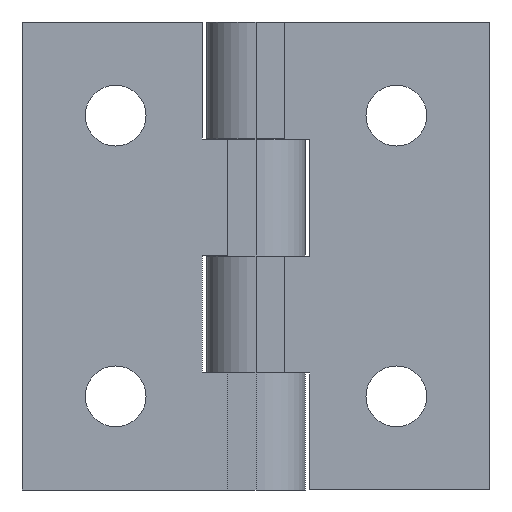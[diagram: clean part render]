
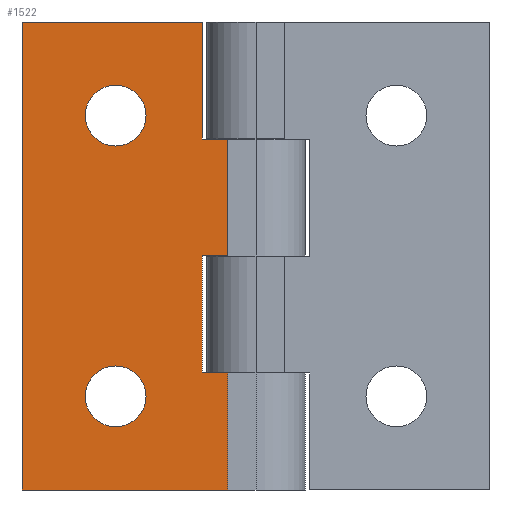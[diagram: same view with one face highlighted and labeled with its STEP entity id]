
A CAD part, front view. The second image highlights one B-rep face of the part: STEP entity #1522.
In plain terms, the highlighted planar face has unit normal (0, -1, 0).
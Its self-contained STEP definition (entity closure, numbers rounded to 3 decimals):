
#54 = VERTEX_POINT ( 'NONE', #1564 ) ;
#57 = DIRECTION ( 'NONE',  ( 1., 0., 0. ) ) ;
#66 = DIRECTION ( 'NONE',  ( 0., 1., 0. ) ) ;
#131 = VECTOR ( 'NONE', #57, 1000. ) ;
#135 = ORIENTED_EDGE ( 'NONE', *, *, #1379, .F. ) ;
#166 = AXIS2_PLACEMENT_3D ( 'NONE', #364, #1639, #1399 ) ;
#169 = PLANE ( 'NONE',  #1147 ) ;
#180 = FACE_BOUND ( 'NONE', #945, .T. ) ;
#201 = ORIENTED_EDGE ( 'NONE', *, *, #1038, .T. ) ;
#211 = EDGE_CURVE ( 'NONE', #782, #902, #321, .T. ) ;
#232 = DIRECTION ( 'NONE',  ( 1., 0., 0. ) ) ;
#234 = AXIS2_PLACEMENT_3D ( 'NONE', #547, #1428, #1201 ) ;
#251 = CARTESIAN_POINT ( 'NONE',  ( -5.28, -5.423, -17.5 ) ) ;
#256 = CARTESIAN_POINT ( 'NONE',  ( -5.28, -5.423, 7.5 ) ) ;
#259 = VERTEX_POINT ( 'NONE', #1033 ) ;
#263 = EDGE_LOOP ( 'NONE', ( #201, #789 ) ) ;
#274 = VECTOR ( 'NONE', #1345, 1000. ) ;
#275 = EDGE_CURVE ( 'NONE', #1572, #392, #915, .T. ) ;
#314 = LINE ( 'NONE', #831, #274 ) ;
#321 = LINE ( 'NONE', #1114, #131 ) ;
#322 = CARTESIAN_POINT ( 'NONE',  ( -2.53, -5.423, 20. ) ) ;
#357 = CARTESIAN_POINT ( 'NONE',  ( -14.53, -5.423, 13.25 ) ) ;
#364 = CARTESIAN_POINT ( 'NONE',  ( -14.53, -5.423, -20. ) ) ;
#370 = CARTESIAN_POINT ( 'NONE',  ( -14.53, -5.423, 6.75 ) ) ;
#381 = VECTOR ( 'NONE', #232, 1000. ) ;
#382 = LINE ( 'NONE', #1531, #1507 ) ;
#390 = CARTESIAN_POINT ( 'NONE',  ( -14.53, -5.423, 10. ) ) ;
#392 = VERTEX_POINT ( 'NONE', #804 ) ;
#396 = ORIENTED_EDGE ( 'NONE', *, *, #756, .T. ) ;
#411 = CARTESIAN_POINT ( 'NONE',  ( -2.53, -5.423, -17.5 ) ) ;
#418 = CIRCLE ( 'NONE', #609, 3.25 ) ;
#441 = CARTESIAN_POINT ( 'NONE',  ( -2.53, -5.423, 20. ) ) ;
#450 = LINE ( 'NONE', #849, #736 ) ;
#465 = FACE_BOUND ( 'NONE', #263, .T. ) ;
#466 = DIRECTION ( 'NONE',  ( 0., 0., 1. ) ) ;
#467 = LINE ( 'NONE', #574, #1179 ) ;
#469 = EDGE_CURVE ( 'NONE', #259, #1572, #314, .T. ) ;
#473 = CIRCLE ( 'NONE', #234, 3.25 ) ;
#503 = ORIENTED_EDGE ( 'NONE', *, *, #1275, .F. ) ;
#517 = LINE ( 'NONE', #787, #1018 ) ;
#521 = VECTOR ( 'NONE', #707, 1000. ) ;
#530 = DIRECTION ( 'NONE',  ( 0., 0., -1. ) ) ;
#547 = CARTESIAN_POINT ( 'NONE',  ( -14.53, -5.423, -20. ) ) ;
#574 = CARTESIAN_POINT ( 'NONE',  ( -2.53, -5.423, -30. ) ) ;
#590 = FACE_OUTER_BOUND ( 'NONE', #1027, .T. ) ;
#609 = AXIS2_PLACEMENT_3D ( 'NONE', #390, #66, #466 ) ;
#615 = EDGE_CURVE ( 'NONE', #392, #1557, #994, .T. ) ;
#617 = DIRECTION ( 'NONE',  ( 0., 0., -1. ) ) ;
#639 = VERTEX_POINT ( 'NONE', #357 ) ;
#653 = DIRECTION ( 'NONE',  ( 0., 1., 0. ) ) ;
#689 = CIRCLE ( 'NONE', #166, 3.25 ) ;
#696 = VERTEX_POINT ( 'NONE', #1285 ) ;
#698 = CARTESIAN_POINT ( 'NONE',  ( -2.53, -5.423, -5. ) ) ;
#707 = DIRECTION ( 'NONE',  ( 0., 0., -1. ) ) ;
#722 = VERTEX_POINT ( 'NONE', #370 ) ;
#729 = CARTESIAN_POINT ( 'NONE',  ( -5.28, -5.423, -5. ) ) ;
#736 = VECTOR ( 'NONE', #972, 1000. ) ;
#751 = EDGE_CURVE ( 'NONE', #1490, #54, #382, .T. ) ;
#756 = EDGE_CURVE ( 'NONE', #1600, #1039, #689, .T. ) ;
#760 = AXIS2_PLACEMENT_3D ( 'NONE', #920, #653, #912 ) ;
#777 = ORIENTED_EDGE ( 'NONE', *, *, #1463, .T. ) ;
#782 = VERTEX_POINT ( 'NONE', #251 ) ;
#785 = ORIENTED_EDGE ( 'NONE', *, *, #751, .T. ) ;
#787 = CARTESIAN_POINT ( 'NONE',  ( -2.53, -5.423, 20. ) ) ;
#789 = ORIENTED_EDGE ( 'NONE', *, *, #969, .T. ) ;
#790 = CARTESIAN_POINT ( 'NONE',  ( -14.53, -5.423, -16.75 ) ) ;
#804 = CARTESIAN_POINT ( 'NONE',  ( -2.53, -5.423, 7.5 ) ) ;
#831 = CARTESIAN_POINT ( 'NONE',  ( -5.28, -5.423, 7.5 ) ) ;
#849 = CARTESIAN_POINT ( 'NONE',  ( -5.28, -5.423, -5. ) ) ;
#864 = EDGE_CURVE ( 'NONE', #1039, #1600, #473, .T. ) ;
#893 = CARTESIAN_POINT ( 'NONE',  ( -5.28, -5.423, 7.5 ) ) ;
#894 = ORIENTED_EDGE ( 'NONE', *, *, #211, .F. ) ;
#902 = VERTEX_POINT ( 'NONE', #411 ) ;
#912 = DIRECTION ( 'NONE',  ( 0., 0., 1. ) ) ;
#915 = LINE ( 'NONE', #256, #381 ) ;
#920 = CARTESIAN_POINT ( 'NONE',  ( -14.53, -5.423, 10. ) ) ;
#929 = ORIENTED_EDGE ( 'NONE', *, *, #615, .F. ) ;
#940 = CIRCLE ( 'NONE', #760, 3.25 ) ;
#945 = EDGE_LOOP ( 'NONE', ( #1282, #396 ) ) ;
#946 = CARTESIAN_POINT ( 'NONE',  ( -2.53, -5.423, 20. ) ) ;
#969 = EDGE_CURVE ( 'NONE', #722, #639, #418, .T. ) ;
#972 = DIRECTION ( 'NONE',  ( -1., 0., 0. ) ) ;
#992 = DIRECTION ( 'NONE',  ( -1., 0., 0. ) ) ;
#994 = LINE ( 'NONE', #441, #521 ) ;
#1018 = VECTOR ( 'NONE', #1193, 1000. ) ;
#1026 = CARTESIAN_POINT ( 'NONE',  ( -14.53, -5.423, -23.25 ) ) ;
#1027 = EDGE_LOOP ( 'NONE', ( #894, #1051, #1430, #929, #1372, #1312, #777, #785, #503, #135 ) ) ;
#1033 = CARTESIAN_POINT ( 'NONE',  ( -5.28, -5.423, 20. ) ) ;
#1038 = EDGE_CURVE ( 'NONE', #639, #722, #940, .T. ) ;
#1039 = VERTEX_POINT ( 'NONE', #790 ) ;
#1051 = ORIENTED_EDGE ( 'NONE', *, *, #1222, .F. ) ;
#1067 = CARTESIAN_POINT ( 'NONE',  ( -24.53, -5.423, 20. ) ) ;
#1085 = CARTESIAN_POINT ( 'NONE',  ( -5.28, -5.423, -5. ) ) ;
#1094 = DIRECTION ( 'NONE',  ( 1., 0., 0. ) ) ;
#1114 = CARTESIAN_POINT ( 'NONE',  ( -5.28, -5.423, -17.5 ) ) ;
#1147 = AXIS2_PLACEMENT_3D ( 'NONE', #322, #1500, #1094 ) ;
#1179 = VECTOR ( 'NONE', #992, 1000. ) ;
#1186 = VERTEX_POINT ( 'NONE', #1085 ) ;
#1193 = DIRECTION ( 'NONE',  ( -1., 0., 0. ) ) ;
#1200 = LINE ( 'NONE', #946, #1231 ) ;
#1201 = DIRECTION ( 'NONE',  ( 0., 0., 1. ) ) ;
#1217 = LINE ( 'NONE', #729, #1366 ) ;
#1222 = EDGE_CURVE ( 'NONE', #1186, #782, #1217, .T. ) ;
#1231 = VECTOR ( 'NONE', #530, 1000. ) ;
#1263 = EDGE_CURVE ( 'NONE', #1557, #1186, #450, .T. ) ;
#1275 = EDGE_CURVE ( 'NONE', #696, #54, #467, .T. ) ;
#1282 = ORIENTED_EDGE ( 'NONE', *, *, #864, .T. ) ;
#1285 = CARTESIAN_POINT ( 'NONE',  ( -2.53, -5.423, -30. ) ) ;
#1312 = ORIENTED_EDGE ( 'NONE', *, *, #469, .F. ) ;
#1345 = DIRECTION ( 'NONE',  ( 0., 0., -1. ) ) ;
#1366 = VECTOR ( 'NONE', #1474, 1000. ) ;
#1372 = ORIENTED_EDGE ( 'NONE', *, *, #275, .F. ) ;
#1379 = EDGE_CURVE ( 'NONE', #902, #696, #1200, .T. ) ;
#1399 = DIRECTION ( 'NONE',  ( 0., 0., 1. ) ) ;
#1428 = DIRECTION ( 'NONE',  ( 0., 1., 0. ) ) ;
#1430 = ORIENTED_EDGE ( 'NONE', *, *, #1263, .F. ) ;
#1463 = EDGE_CURVE ( 'NONE', #259, #1490, #517, .T. ) ;
#1474 = DIRECTION ( 'NONE',  ( 0., 0., -1. ) ) ;
#1490 = VERTEX_POINT ( 'NONE', #1067 ) ;
#1500 = DIRECTION ( 'NONE',  ( 0., -1., 0. ) ) ;
#1507 = VECTOR ( 'NONE', #617, 1000. ) ;
#1522 = ADVANCED_FACE ( 'NONE', ( #590, #465, #180 ), #169, .T. ) ;
#1531 = CARTESIAN_POINT ( 'NONE',  ( -24.53, -5.423, 20. ) ) ;
#1557 = VERTEX_POINT ( 'NONE', #698 ) ;
#1564 = CARTESIAN_POINT ( 'NONE',  ( -24.53, -5.423, -30. ) ) ;
#1572 = VERTEX_POINT ( 'NONE', #893 ) ;
#1600 = VERTEX_POINT ( 'NONE', #1026 ) ;
#1639 = DIRECTION ( 'NONE',  ( 0., 1., 0. ) ) ;
